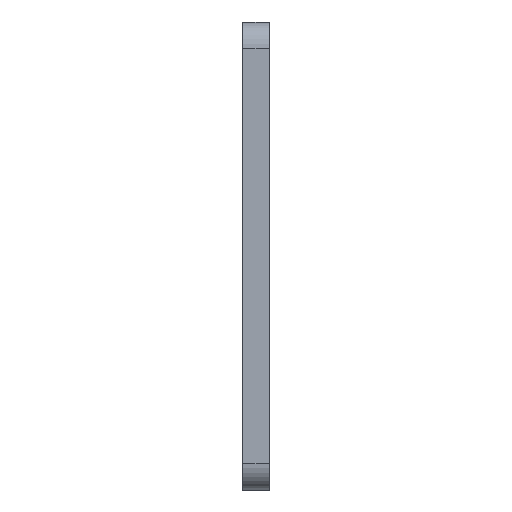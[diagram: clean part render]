
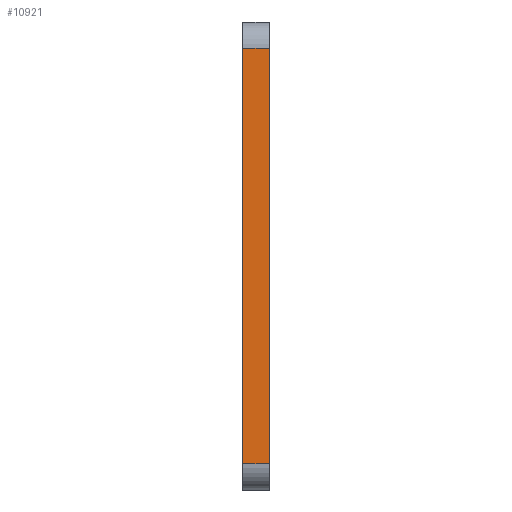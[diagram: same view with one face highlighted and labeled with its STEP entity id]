
A CAD part, left-side view. The second image highlights one B-rep face of the part: STEP entity #10921.
In plain terms, the highlighted planar face has unit normal (-1, 0, 0).
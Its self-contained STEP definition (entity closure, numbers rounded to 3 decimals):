
#1328 = CARTESIAN_POINT ( 'NONE',  ( 35.5, 78.001, -101.5 ) ) ;
#1712 = VERTEX_POINT ( 'NONE', #23253 ) ;
#2371 = CARTESIAN_POINT ( 'NONE',  ( 35.5, 80.001, -98.5 ) ) ;
#2696 = ORIENTED_EDGE ( 'NONE', *, *, #11381, .T. ) ;
#3812 = VECTOR ( 'NONE', #14050, 1000. ) ;
#3915 = CARTESIAN_POINT ( 'NONE',  ( 35.5, 77.001, -149. ) ) ;
#4128 = AXIS2_PLACEMENT_3D ( 'NONE', #17705, #23546, #19411 ) ;
#4478 = ORIENTED_EDGE ( 'NONE', *, *, #21278, .T. ) ;
#6098 = VECTOR ( 'NONE', #9136, 1000. ) ;
#6309 = EDGE_CURVE ( 'NONE', #1712, #8650, #18029, .T. ) ;
#8650 = VERTEX_POINT ( 'NONE', #19360 ) ;
#8688 = FACE_OUTER_BOUND ( 'NONE', #9800, .T. ) ;
#9136 = DIRECTION ( 'NONE',  ( 0., -1., 0. ) ) ;
#9314 = ORIENTED_EDGE ( 'NONE', *, *, #15588, .F. ) ;
#9575 = CARTESIAN_POINT ( 'NONE',  ( 35.5, 80.001, -149. ) ) ;
#9735 = CARTESIAN_POINT ( 'NONE',  ( 35.5, 77.001, -101.5 ) ) ;
#9800 = EDGE_LOOP ( 'NONE', ( #4478, #2696, #9314, #10275 ) ) ;
#10275 = ORIENTED_EDGE ( 'NONE', *, *, #6309, .T. ) ;
#10921 = ADVANCED_FACE ( 'NONE', ( #8688 ), #15784, .F. ) ;
#11381 = EDGE_CURVE ( 'NONE', #14068, #19792, #21823, .T. ) ;
#11743 = VECTOR ( 'NONE', #11778, 1000. ) ;
#11778 = DIRECTION ( 'NONE',  ( 0., 0., -1. ) ) ;
#12832 = LINE ( 'NONE', #9735, #19452 ) ;
#14050 = DIRECTION ( 'NONE',  ( 0., 1., 0. ) ) ;
#14068 = VERTEX_POINT ( 'NONE', #9575 ) ;
#15221 = DIRECTION ( 'NONE',  ( 0., 0., -1. ) ) ;
#15588 = EDGE_CURVE ( 'NONE', #1712, #19792, #12832, .T. ) ;
#15784 = PLANE ( 'NONE',  #4128 ) ;
#17705 = CARTESIAN_POINT ( 'NONE',  ( 35.5, 78.001, -98.5 ) ) ;
#18029 = LINE ( 'NONE', #1328, #3812 ) ;
#19360 = CARTESIAN_POINT ( 'NONE',  ( 35.5, 80.001, -101.5 ) ) ;
#19411 = DIRECTION ( 'NONE',  ( 0., 1., 0. ) ) ;
#19452 = VECTOR ( 'NONE', #15221, 1000. ) ;
#19792 = VERTEX_POINT ( 'NONE', #3915 ) ;
#21031 = LINE ( 'NONE', #2371, #11743 ) ;
#21278 = EDGE_CURVE ( 'NONE', #8650, #14068, #21031, .T. ) ;
#21823 = LINE ( 'NONE', #23882, #6098 ) ;
#23253 = CARTESIAN_POINT ( 'NONE',  ( 35.5, 77.001, -101.5 ) ) ;
#23546 = DIRECTION ( 'NONE',  ( 1., 0., 0. ) ) ;
#23882 = CARTESIAN_POINT ( 'NONE',  ( 35.5, 78.001, -149. ) ) ;
